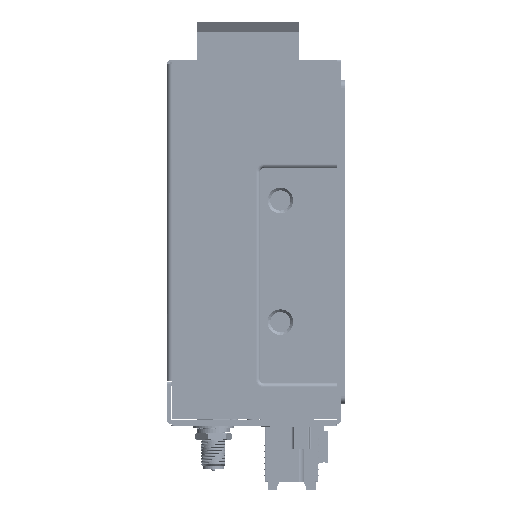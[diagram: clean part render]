
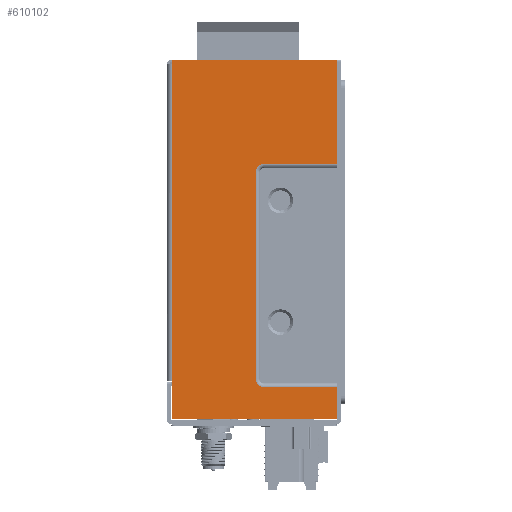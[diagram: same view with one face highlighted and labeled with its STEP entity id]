
A CAD part, left-side view. The second image highlights one B-rep face of the part: STEP entity #610102.
In plain terms, the highlighted planar face has unit normal (-1, 0, 0).
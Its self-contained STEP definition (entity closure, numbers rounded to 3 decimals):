
#6758 = DIRECTION ( 'NONE',  ( 0., 0., -1. ) ) ;
#10236 = VECTOR ( 'NONE', #515909, 1000. ) ;
#13408 = DIRECTION ( 'NONE',  ( 0., 0., -1. ) ) ;
#18379 = ORIENTED_EDGE ( 'NONE', *, *, #706831, .T. ) ;
#22168 = VERTEX_POINT ( 'NONE', #156256 ) ;
#23386 = CARTESIAN_POINT ( 'NONE',  ( 0., 23., 1.65 ) ) ;
#30034 = LINE ( 'NONE', #309743, #203446 ) ;
#33627 = ORIENTED_EDGE ( 'NONE', *, *, #401873, .T. ) ;
#34023 = CARTESIAN_POINT ( 'NONE',  ( 0., 0.25, -78.6 ) ) ;
#37758 = DIRECTION ( 'NONE',  ( 0., 1., 0. ) ) ;
#52069 = DIRECTION ( 'NONE',  ( 0., -1., 0. ) ) ;
#52860 = CARTESIAN_POINT ( 'NONE',  ( 0., 0.25, 9.15 ) ) ;
#53121 = VERTEX_POINT ( 'NONE', #420831 ) ;
#56358 = VERTEX_POINT ( 'NONE', #427662 ) ;
#56370 = EDGE_CURVE ( 'NONE', #251884, #221403, #372445, .T. ) ;
#57022 = VECTOR ( 'NONE', #52069, 1000. ) ;
#57935 = LINE ( 'NONE', #499731, #487290 ) ;
#58017 = FACE_OUTER_BOUND ( 'NONE', #339762, .T. ) ;
#85733 = CARTESIAN_POINT ( 'NONE',  ( 0., 40.5, -78.6 ) ) ;
#92984 = DIRECTION ( 'NONE',  ( -1., 0., 0. ) ) ;
#94607 = DIRECTION ( 'NONE',  ( 0., 1., 0. ) ) ;
#99601 = CARTESIAN_POINT ( 'NONE',  ( 0., 23., -53.35 ) ) ;
#117645 = EDGE_CURVE ( 'NONE', #359217, #142348, #593199, .T. ) ;
#122464 = ORIENTED_EDGE ( 'NONE', *, *, #527804, .T. ) ;
#123155 = EDGE_CURVE ( 'NONE', #359217, #358319, #331716, .T. ) ;
#132578 = ORIENTED_EDGE ( 'NONE', *, *, #407171, .T. ) ;
#139169 = DIRECTION ( 'NONE',  ( 0., 1., 0. ) ) ;
#142348 = VERTEX_POINT ( 'NONE', #371910 ) ;
#143926 = VECTOR ( 'NONE', #676120, 1000. ) ;
#147739 = VERTEX_POINT ( 'NONE', #541169 ) ;
#156256 = CARTESIAN_POINT ( 'NONE',  ( 0., 41., -78.6 ) ) ;
#166491 = ORIENTED_EDGE ( 'NONE', *, *, #412394, .T. ) ;
#171747 = AXIS2_PLACEMENT_3D ( 'NONE', #565988, #691184, #286086 ) ;
#177856 = CARTESIAN_POINT ( 'NONE',  ( 0., 21., -51.35 ) ) ;
#203446 = VECTOR ( 'NONE', #206531, 1000. ) ;
#206531 = DIRECTION ( 'NONE',  ( 0., -1., 0. ) ) ;
#217230 = VECTOR ( 'NONE', #231896, 1000. ) ;
#217940 = VECTOR ( 'NONE', #269325, 1000. ) ;
#221403 = VERTEX_POINT ( 'NONE', #287898 ) ;
#231896 = DIRECTION ( 'NONE',  ( 0., 0., -1. ) ) ;
#243596 = CARTESIAN_POINT ( 'NONE',  ( 0., 41., -53.35 ) ) ;
#247600 = CARTESIAN_POINT ( 'NONE',  ( 0., 23., 1.65 ) ) ;
#251884 = VERTEX_POINT ( 'NONE', #34023 ) ;
#263998 = CIRCLE ( 'NONE', #675621, 0.5 ) ;
#269325 = DIRECTION ( 'NONE',  ( 0., 0., 1. ) ) ;
#274688 = CARTESIAN_POINT ( 'NONE',  ( 0., 23., -0.35 ) ) ;
#281892 = ORIENTED_EDGE ( 'NONE', *, *, #675529, .T. ) ;
#283791 = CARTESIAN_POINT ( 'NONE',  ( 0., 41., 9.65 ) ) ;
#286086 = DIRECTION ( 'NONE',  ( 0., 1., 0. ) ) ;
#287898 = CARTESIAN_POINT ( 'NONE',  ( 0., 0.25, -77.923 ) ) ;
#291348 = CARTESIAN_POINT ( 'NONE',  ( 0., 0., -53.35 ) ) ;
#297016 = PLANE ( 'NONE',  #171747 ) ;
#309743 = CARTESIAN_POINT ( 'NONE',  ( 0., 0.25, -79.1 ) ) ;
#314809 = DIRECTION ( 'NONE',  ( 0., 1., 0. ) ) ;
#330360 = EDGE_CURVE ( 'NONE', #469698, #358319, #460496, .T. ) ;
#331716 = LINE ( 'NONE', #283791, #57022 ) ;
#332578 = DIRECTION ( 'NONE',  ( -1., 0., 0. ) ) ;
#339762 = EDGE_LOOP ( 'NONE', ( #132578, #545735, #353423, #580955, #413143, #538057, #721637, #540783, #166491, #679809, #18379, #281892, #638750, #33627, #594570, #122464 ) ) ;
#345256 = AXIS2_PLACEMENT_3D ( 'NONE', #664651, #546732, #314809 ) ;
#352264 = VERTEX_POINT ( 'NONE', #177856 ) ;
#353423 = ORIENTED_EDGE ( 'NONE', *, *, #56370, .T. ) ;
#353717 = VECTOR ( 'NONE', #6758, 1000. ) ;
#358319 = VERTEX_POINT ( 'NONE', #717094 ) ;
#359217 = VERTEX_POINT ( 'NONE', #687792 ) ;
#370614 = DIRECTION ( 'NONE',  ( 1., 0., 0. ) ) ;
#371910 = CARTESIAN_POINT ( 'NONE',  ( 0., 41., 9.15 ) ) ;
#372445 = LINE ( 'NONE', #718779, #217940 ) ;
#376314 = VERTEX_POINT ( 'NONE', #23386 ) ;
#390542 = DIRECTION ( 'NONE',  ( 0., 1., 0. ) ) ;
#391332 = CARTESIAN_POINT ( 'NONE',  ( 0., 40.5, 9.15 ) ) ;
#392944 = CARTESIAN_POINT ( 'NONE',  ( 0., 21., -0.35 ) ) ;
#396163 = LINE ( 'NONE', #573017, #695672 ) ;
#397032 = CIRCLE ( 'NONE', #596989, 2. ) ;
#397909 = DIRECTION ( 'NONE',  ( -1., 0., 0. ) ) ;
#401873 = EDGE_CURVE ( 'NONE', #713295, #458033, #449688, .T. ) ;
#407171 = EDGE_CURVE ( 'NONE', #530793, #56358, #30034, .T. ) ;
#412394 = EDGE_CURVE ( 'NONE', #142348, #53121, #396163, .T. ) ;
#413143 = ORIENTED_EDGE ( 'NONE', *, *, #540287, .F. ) ;
#415858 = CARTESIAN_POINT ( 'NONE',  ( 0., 40.5, -79.1 ) ) ;
#416170 = CIRCLE ( 'NONE', #345256, 2. ) ;
#420831 = CARTESIAN_POINT ( 'NONE',  ( 0., 41., 1.65 ) ) ;
#427662 = CARTESIAN_POINT ( 'NONE',  ( 0., 0.75, -79.1 ) ) ;
#440131 = AXIS2_PLACEMENT_3D ( 'NONE', #391332, #332578, #671563 ) ;
#447929 = EDGE_CURVE ( 'NONE', #458033, #22168, #559736, .T. ) ;
#449688 = LINE ( 'NONE', #291348, #10236 ) ;
#458033 = VERTEX_POINT ( 'NONE', #243596 ) ;
#460496 = CIRCLE ( 'NONE', #601483, 0.5 ) ;
#466732 = LINE ( 'NONE', #695246, #353717 ) ;
#468464 = LINE ( 'NONE', #247600, #561458 ) ;
#469698 = VERTEX_POINT ( 'NONE', #52860 ) ;
#482164 = VERTEX_POINT ( 'NONE', #392944 ) ;
#482934 = DIRECTION ( 'NONE',  ( 0., -1., 0. ) ) ;
#487290 = VECTOR ( 'NONE', #555025, 1000. ) ;
#490321 = EDGE_CURVE ( 'NONE', #53121, #376314, #468464, .T. ) ;
#499731 = CARTESIAN_POINT ( 'NONE',  ( 0., 21., 0. ) ) ;
#515909 = DIRECTION ( 'NONE',  ( 0., 1., 0. ) ) ;
#527804 = EDGE_CURVE ( 'NONE', #22168, #530793, #263998, .T. ) ;
#528757 = EDGE_CURVE ( 'NONE', #352264, #713295, #416170, .T. ) ;
#530793 = VERTEX_POINT ( 'NONE', #415858 ) ;
#538057 = ORIENTED_EDGE ( 'NONE', *, *, #330360, .T. ) ;
#540287 = EDGE_CURVE ( 'NONE', #469698, #147739, #724225, .T. ) ;
#540783 = ORIENTED_EDGE ( 'NONE', *, *, #117645, .T. ) ;
#541169 = CARTESIAN_POINT ( 'NONE',  ( 0., 0.25, 0.15 ) ) ;
#545735 = ORIENTED_EDGE ( 'NONE', *, *, #686208, .T. ) ;
#546732 = DIRECTION ( 'NONE',  ( 1., 0., 0. ) ) ;
#555025 = DIRECTION ( 'NONE',  ( 0., 0., -1. ) ) ;
#559736 = LINE ( 'NONE', #563349, #217230 ) ;
#561458 = VECTOR ( 'NONE', #482934, 1000. ) ;
#563349 = CARTESIAN_POINT ( 'NONE',  ( 0., 41., 0. ) ) ;
#565988 = CARTESIAN_POINT ( 'NONE',  ( 0., 0., 0. ) ) ;
#573017 = CARTESIAN_POINT ( 'NONE',  ( 0., 41., 0. ) ) ;
#580955 = ORIENTED_EDGE ( 'NONE', *, *, #657867, .F. ) ;
#593199 = CIRCLE ( 'NONE', #440131, 0.5 ) ;
#594570 = ORIENTED_EDGE ( 'NONE', *, *, #447929, .T. ) ;
#596989 = AXIS2_PLACEMENT_3D ( 'NONE', #274688, #370614, #94607 ) ;
#601483 = AXIS2_PLACEMENT_3D ( 'NONE', #726035, #715273, #390542 ) ;
#610102 = ADVANCED_FACE ( 'NONE', ( #58017 ), #297016, .F. ) ;
#619942 = CIRCLE ( 'NONE', #714358, 0.5 ) ;
#627975 = CARTESIAN_POINT ( 'NONE',  ( 0., 0.25, 9.65 ) ) ;
#638750 = ORIENTED_EDGE ( 'NONE', *, *, #528757, .T. ) ;
#643716 = CARTESIAN_POINT ( 'NONE',  ( 0., 0.75, -78.6 ) ) ;
#657867 = EDGE_CURVE ( 'NONE', #147739, #221403, #466732, .T. ) ;
#664651 = CARTESIAN_POINT ( 'NONE',  ( 0., 23., -51.35 ) ) ;
#671563 = DIRECTION ( 'NONE',  ( 0., 1., 0. ) ) ;
#675529 = EDGE_CURVE ( 'NONE', #482164, #352264, #57935, .T. ) ;
#675621 = AXIS2_PLACEMENT_3D ( 'NONE', #85733, #92984, #37758 ) ;
#676120 = DIRECTION ( 'NONE',  ( 0., 0., -1. ) ) ;
#679809 = ORIENTED_EDGE ( 'NONE', *, *, #490321, .T. ) ;
#686208 = EDGE_CURVE ( 'NONE', #56358, #251884, #619942, .T. ) ;
#687792 = CARTESIAN_POINT ( 'NONE',  ( 0., 40.5, 9.65 ) ) ;
#691184 = DIRECTION ( 'NONE',  ( 1., 0., 0. ) ) ;
#695246 = CARTESIAN_POINT ( 'NONE',  ( 0., 0.25, -79.1 ) ) ;
#695672 = VECTOR ( 'NONE', #13408, 1000. ) ;
#706831 = EDGE_CURVE ( 'NONE', #376314, #482164, #397032, .T. ) ;
#713295 = VERTEX_POINT ( 'NONE', #99601 ) ;
#714358 = AXIS2_PLACEMENT_3D ( 'NONE', #643716, #397909, #139169 ) ;
#715273 = DIRECTION ( 'NONE',  ( -1., 0., 0. ) ) ;
#717094 = CARTESIAN_POINT ( 'NONE',  ( 0., 0.75, 9.65 ) ) ;
#718779 = CARTESIAN_POINT ( 'NONE',  ( 0., 0.25, -119.862 ) ) ;
#721637 = ORIENTED_EDGE ( 'NONE', *, *, #123155, .F. ) ;
#724225 = LINE ( 'NONE', #627975, #143926 ) ;
#726035 = CARTESIAN_POINT ( 'NONE',  ( 0., 0.75, 9.15 ) ) ;
